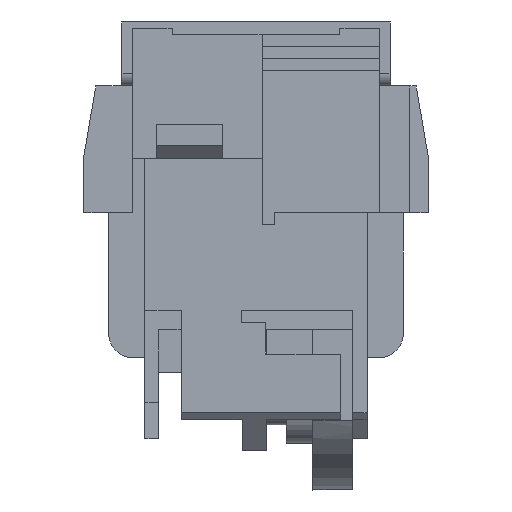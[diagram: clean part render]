
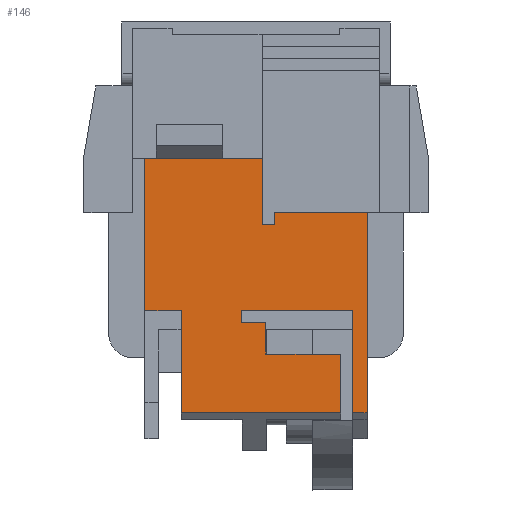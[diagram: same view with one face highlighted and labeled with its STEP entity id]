
A CAD part, left-side view. The second image highlights one B-rep face of the part: STEP entity #146.
In plain terms, the highlighted planar face has unit normal (-1, 0, 0).
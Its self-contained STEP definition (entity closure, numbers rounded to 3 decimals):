
#146=ADVANCED_FACE('',(#723),#446,.F.);
#446=PLANE('',#6249);
#723=FACE_OUTER_BOUND('',#1019,.T.);
#1019=EDGE_LOOP('',(#1383,#1384,#1385,#1386,#1387,#1388,#1389,#1390,#1391,
#1392,#1393,#1394,#1395,#1396,#1397));
#1383=ORIENTED_EDGE('',*,*,#3738,.F.);
#1384=ORIENTED_EDGE('',*,*,#3739,.F.);
#1385=ORIENTED_EDGE('',*,*,#3740,.F.);
#1386=ORIENTED_EDGE('',*,*,#3741,.F.);
#1387=ORIENTED_EDGE('',*,*,#3742,.F.);
#1388=ORIENTED_EDGE('',*,*,#3743,.F.);
#1389=ORIENTED_EDGE('',*,*,#3744,.F.);
#1390=ORIENTED_EDGE('',*,*,#3702,.F.);
#1391=ORIENTED_EDGE('',*,*,#3745,.F.);
#1392=ORIENTED_EDGE('',*,*,#3746,.F.);
#1393=ORIENTED_EDGE('',*,*,#3747,.F.);
#1394=ORIENTED_EDGE('',*,*,#3748,.T.);
#1395=ORIENTED_EDGE('',*,*,#3749,.T.);
#1396=ORIENTED_EDGE('',*,*,#3750,.T.);
#1397=ORIENTED_EDGE('',*,*,#3751,.F.);
#3124=VERTEX_POINT('',#8194);
#3125=VERTEX_POINT('',#8196);
#3159=VERTEX_POINT('',#8272);
#3160=VERTEX_POINT('',#8273);
#3161=VERTEX_POINT('',#8275);
#3162=VERTEX_POINT('',#8277);
#3163=VERTEX_POINT('',#8279);
#3164=VERTEX_POINT('',#8281);
#3165=VERTEX_POINT('',#8283);
#3166=VERTEX_POINT('',#8286);
#3167=VERTEX_POINT('',#8288);
#3168=VERTEX_POINT('',#8290);
#3169=VERTEX_POINT('',#8292);
#3170=VERTEX_POINT('',#8294);
#3171=VERTEX_POINT('',#8296);
#3702=EDGE_CURVE('',#3124,#3125,#4591,.T.);
#3738=EDGE_CURVE('',#3159,#3160,#4624,.T.);
#3739=EDGE_CURVE('',#3161,#3159,#4625,.T.);
#3740=EDGE_CURVE('',#3162,#3161,#4626,.T.);
#3741=EDGE_CURVE('',#3163,#3162,#4627,.T.);
#3742=EDGE_CURVE('',#3164,#3163,#4628,.T.);
#3743=EDGE_CURVE('',#3165,#3164,#4629,.T.);
#3744=EDGE_CURVE('',#3125,#3165,#4630,.T.);
#3745=EDGE_CURVE('',#3166,#3124,#4631,.T.);
#3746=EDGE_CURVE('',#3167,#3166,#4632,.T.);
#3747=EDGE_CURVE('',#3168,#3167,#4633,.T.);
#3748=EDGE_CURVE('',#3168,#3169,#4634,.T.);
#3749=EDGE_CURVE('',#3169,#3170,#4635,.T.);
#3750=EDGE_CURVE('',#3170,#3171,#4636,.T.);
#3751=EDGE_CURVE('',#3160,#3171,#4637,.T.);
#4591=LINE('',#8195,#5426);
#4624=LINE('',#8271,#5459);
#4625=LINE('',#8274,#5460);
#4626=LINE('',#8276,#5461);
#4627=LINE('',#8278,#5462);
#4628=LINE('',#8280,#5463);
#4629=LINE('',#8282,#5464);
#4630=LINE('',#8284,#5465);
#4631=LINE('',#8285,#5466);
#4632=LINE('',#8287,#5467);
#4633=LINE('',#8289,#5468);
#4634=LINE('',#8291,#5469);
#4635=LINE('',#8293,#5470);
#4636=LINE('',#8295,#5471);
#4637=LINE('',#8297,#5472);
#5426=VECTOR('',#6628,1.);
#5459=VECTOR('',#6679,1.);
#5460=VECTOR('',#6680,1.);
#5461=VECTOR('',#6681,1.);
#5462=VECTOR('',#6682,1.);
#5463=VECTOR('',#6683,1.);
#5464=VECTOR('',#6684,1.);
#5465=VECTOR('',#6685,1.);
#5466=VECTOR('',#6686,1.);
#5467=VECTOR('',#6687,1.);
#5468=VECTOR('',#6688,1.);
#5469=VECTOR('',#6689,1.);
#5470=VECTOR('',#6690,1.);
#5471=VECTOR('',#6691,1.);
#5472=VECTOR('',#6692,1.);
#6249=AXIS2_PLACEMENT_3D('',#8298,#6693,#6694);
#6628=DIRECTION('',(0.,0.,1.));
#6679=DIRECTION('',(0.,1.,0.));
#6680=DIRECTION('',(0.,0.,-1.));
#6681=DIRECTION('',(0.,-1.,0.));
#6682=DIRECTION('',(0.,0.,-1.));
#6683=DIRECTION('',(0.,-1.,0.));
#6684=DIRECTION('',(0.,0.,-1.));
#6685=DIRECTION('',(0.,1.,0.));
#6686=DIRECTION('',(0.,1.,0.));
#6687=DIRECTION('',(0.,0.,-1.));
#6688=DIRECTION('',(0.,-1.,0.));
#6689=DIRECTION('',(0.,0.,-1.));
#6690=DIRECTION('',(0.,0.,-1.));
#6691=DIRECTION('',(0.,-1.,0.));
#6692=DIRECTION('',(0.,0.,1.));
#6693=DIRECTION('',(1.,0.,0.));
#6694=DIRECTION('',(0.,0.,-1.));
#8194=CARTESIAN_POINT('',(-30.3,-223.,-31.382));
#8195=CARTESIAN_POINT('',(-30.3,-223.,-32.236));
#8196=CARTESIAN_POINT('',(-30.3,-223.,-22.9));
#8271=CARTESIAN_POINT('',(-30.3,-224.2,-31.382));
#8272=CARTESIAN_POINT('',(-30.3,-222.,-31.382));
#8273=CARTESIAN_POINT('',(-30.3,-208.8,-31.382));
#8274=CARTESIAN_POINT('',(-30.3,-222.,-26.5));
#8275=CARTESIAN_POINT('',(-30.3,-222.,-26.5));
#8276=CARTESIAN_POINT('',(-30.3,-215.8,-26.5));
#8277=CARTESIAN_POINT('',(-30.3,-215.8,-26.5));
#8278=CARTESIAN_POINT('',(-30.3,-215.8,-23.9));
#8279=CARTESIAN_POINT('',(-30.3,-215.8,-23.9));
#8280=CARTESIAN_POINT('',(-30.3,-213.8,-23.9));
#8281=CARTESIAN_POINT('',(-30.3,-213.8,-23.9));
#8282=CARTESIAN_POINT('',(-30.3,-213.8,-22.9));
#8283=CARTESIAN_POINT('',(-30.3,-213.8,-22.9));
#8284=CARTESIAN_POINT('',(-30.3,-223.,-22.9));
#8285=CARTESIAN_POINT('',(-30.3,-224.2,-31.382));
#8286=CARTESIAN_POINT('',(-30.3,-224.2,-31.382));
#8287=CARTESIAN_POINT('',(-30.3,-224.2,-14.8));
#8288=CARTESIAN_POINT('',(-30.3,-224.2,-1.));
#8289=CARTESIAN_POINT('',(-30.3,-205.8,-1.));
#8290=CARTESIAN_POINT('',(-30.3,-205.8,-1.));
#8291=CARTESIAN_POINT('',(-30.3,-205.8,-1.));
#8292=CARTESIAN_POINT('',(-30.3,-205.8,-10.3));
#8293=CARTESIAN_POINT('',(-30.3,-205.8,-14.8));
#8294=CARTESIAN_POINT('',(-30.3,-205.8,-22.9));
#8295=CARTESIAN_POINT('',(-30.3,-224.2,-22.9));
#8296=CARTESIAN_POINT('',(-30.3,-208.8,-22.9));
#8297=CARTESIAN_POINT('',(-30.3,-208.8,-14.8));
#8298=CARTESIAN_POINT('',(-30.3,-224.2,-14.8));
